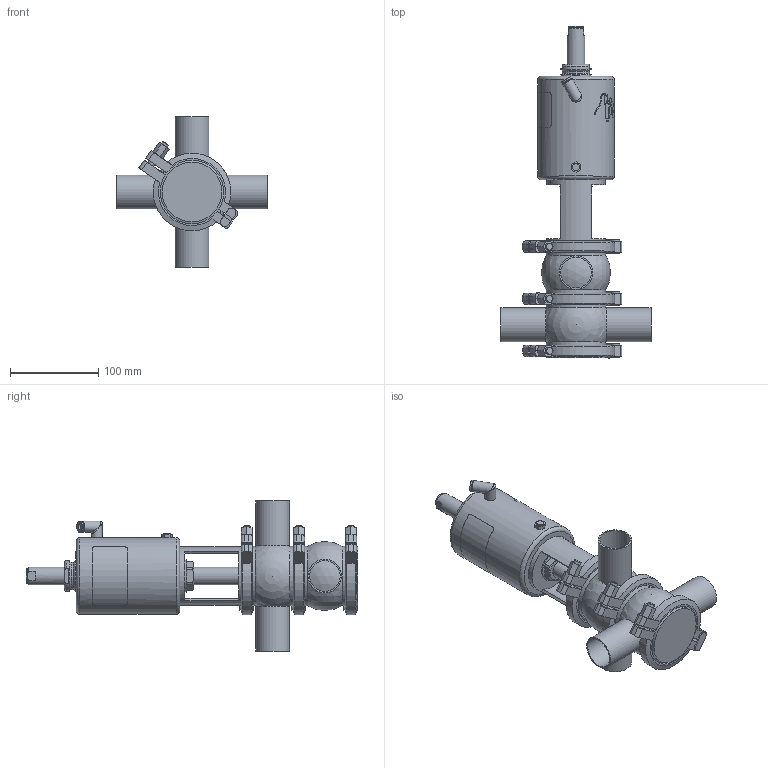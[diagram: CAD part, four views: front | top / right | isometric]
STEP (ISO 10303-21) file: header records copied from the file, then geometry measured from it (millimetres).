
FILE_DESCRIPTION (( 'STEP AP214' ), '1' );
FILE_NAME ('INNOVA M C W OD 1½ T1 AS NC_10.241.16.0007.STEP', '2024-08-07T12:41:41', ( '' ), ( '' ), 'SwSTEP 2.0', 'SolidWorks 2023', '' );
FILE_SCHEMA (( 'AUTOMOTIVE_DESIGN' ));
Length unit declared in the file: millimetre
Products named in the file (6): 10.240.15.0007_OD 1½"; 10.240.15.0014_T1 AS P180; INNOVA M C W OD 1½ T1 AS NC_10.241.16.0007; 10.241.15.0001_DIN 040; 10.240.15.0010_DN 040; 10.240.15.0001_DN 040
Assembly tree (8 placements, depth 2):
  INNOVA M C W OD 1½ T1 AS NC_10.241.16.0007
    10.240.15.0007_OD 1½"  x2
    10.240.15.0010_DN 040
    10.240.15.0014_T1 AS P180
    10.240.15.0001_DN 040  x3
    10.241.15.0001_DIN 040
Bounding box: 170 x 376.07 x 170 mm (x, y, z)
Volume: 1477308 mm3; surface area: 239337.4 mm2
Topology: 9 solids, 9 shells, 467 faces, 1223 edges, 798 vertices
Faces by surface type: plane 227, cylinder 114, bspline 80, cone 36, sphere 6, torus 4
Full cylindrical faces by diameter (mm): 6.15 x1, 8 x7, 8.5 x1, 10.5 x1, 12.5 x3, 16 x1, 20 x2, 31 x1, 34.5 x2, 34.8 x4, 36.5 x1, 38.1 x4, 66 x1, 67.5 x5, 79.5 x6, 87 x1
Entity records: 19362 total; most frequent: CARTESIAN_POINT 10185, ORIENTED_EDGE 1600, DIRECTION 1221, EDGE_CURVE 800, VERTEX_POINT 551, AXIS2_PLACEMENT_3D 466, EDGE_LOOP 407, FACE_OUTER_BOUND 366
